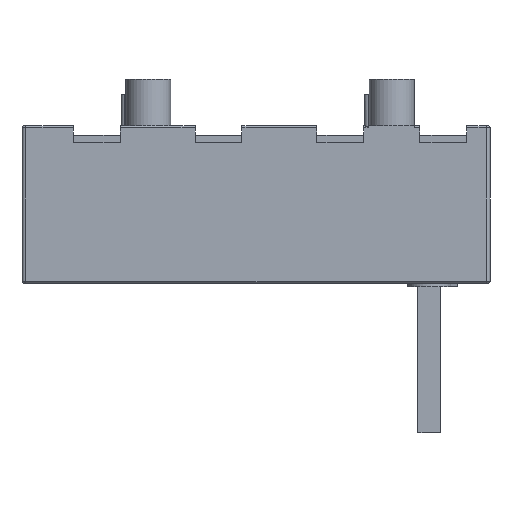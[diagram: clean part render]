
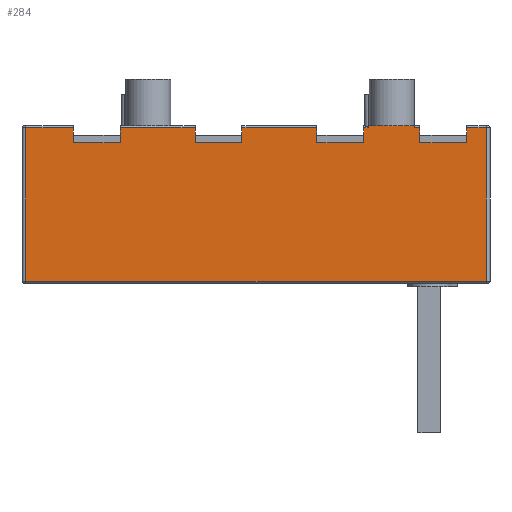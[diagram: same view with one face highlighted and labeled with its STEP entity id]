
A CAD part, front view. The second image highlights one B-rep face of the part: STEP entity #284.
In plain terms, the highlighted planar face has unit normal (0, -1, 0).
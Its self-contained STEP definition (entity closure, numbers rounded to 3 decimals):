
#284=ADVANCED_FACE('',(#620),#500,.T.);
#500=PLANE('',#3919);
#620=FACE_OUTER_BOUND('',#768,.T.);
#768=EDGE_LOOP('',(#1289,#1290,#1291,#1292,#1293,#1294,#1295,#1296,#1297,
#1298,#1299,#1300,#1301,#1302,#1303,#1304,#1305,#1306,#1307,#1308,#1309,
#1310,#1311,#1312,#1313,#1314,#1315,#1316,#1317,#1318,#1319,#1320,#1321,
#1322));
#1289=ORIENTED_EDGE('',*,*,#2713,.F.);
#1290=ORIENTED_EDGE('',*,*,#2714,.F.);
#1291=ORIENTED_EDGE('',*,*,#2715,.T.);
#1292=ORIENTED_EDGE('',*,*,#2716,.T.);
#1293=ORIENTED_EDGE('',*,*,#2717,.T.);
#1294=ORIENTED_EDGE('',*,*,#2718,.F.);
#1295=ORIENTED_EDGE('',*,*,#2719,.F.);
#1296=ORIENTED_EDGE('',*,*,#2720,.T.);
#1297=ORIENTED_EDGE('',*,*,#2721,.T.);
#1298=ORIENTED_EDGE('',*,*,#2722,.T.);
#1299=ORIENTED_EDGE('',*,*,#2674,.F.);
#1300=ORIENTED_EDGE('',*,*,#2723,.T.);
#1301=ORIENTED_EDGE('',*,*,#2724,.T.);
#1302=ORIENTED_EDGE('',*,*,#2725,.T.);
#1303=ORIENTED_EDGE('',*,*,#2672,.T.);
#1304=ORIENTED_EDGE('',*,*,#2726,.T.);
#1305=ORIENTED_EDGE('',*,*,#2727,.F.);
#1306=ORIENTED_EDGE('',*,*,#2728,.F.);
#1307=ORIENTED_EDGE('',*,*,#2729,.F.);
#1308=ORIENTED_EDGE('',*,*,#2730,.F.);
#1309=ORIENTED_EDGE('',*,*,#2731,.T.);
#1310=ORIENTED_EDGE('',*,*,#2732,.T.);
#1311=ORIENTED_EDGE('',*,*,#2733,.F.);
#1312=ORIENTED_EDGE('',*,*,#2734,.F.);
#1313=ORIENTED_EDGE('',*,*,#2735,.F.);
#1314=ORIENTED_EDGE('',*,*,#2736,.F.);
#1315=ORIENTED_EDGE('',*,*,#2737,.T.);
#1316=ORIENTED_EDGE('',*,*,#2738,.T.);
#1317=ORIENTED_EDGE('',*,*,#2739,.F.);
#1318=ORIENTED_EDGE('',*,*,#2740,.T.);
#1319=ORIENTED_EDGE('',*,*,#2741,.T.);
#1320=ORIENTED_EDGE('',*,*,#2742,.T.);
#1321=ORIENTED_EDGE('',*,*,#2743,.F.);
#1322=ORIENTED_EDGE('',*,*,#2744,.F.);
#2306=VERTEX_POINT('',#5440);
#2310=VERTEX_POINT('',#5448);
#2311=VERTEX_POINT('',#5452);
#2313=VERTEX_POINT('',#5455);
#2349=VERTEX_POINT('',#5538);
#2350=VERTEX_POINT('',#5539);
#2351=VERTEX_POINT('',#5541);
#2352=VERTEX_POINT('',#5543);
#2353=VERTEX_POINT('',#5545);
#2354=VERTEX_POINT('',#5547);
#2355=VERTEX_POINT('',#5549);
#2356=VERTEX_POINT('',#5551);
#2357=VERTEX_POINT('',#5553);
#2358=VERTEX_POINT('',#5555);
#2359=VERTEX_POINT('',#5558);
#2360=VERTEX_POINT('',#5560);
#2361=VERTEX_POINT('',#5563);
#2362=VERTEX_POINT('',#5565);
#2363=VERTEX_POINT('',#5567);
#2364=VERTEX_POINT('',#5569);
#2365=VERTEX_POINT('',#5571);
#2366=VERTEX_POINT('',#5573);
#2367=VERTEX_POINT('',#5575);
#2368=VERTEX_POINT('',#5577);
#2369=VERTEX_POINT('',#5579);
#2370=VERTEX_POINT('',#5581);
#2371=VERTEX_POINT('',#5583);
#2372=VERTEX_POINT('',#5585);
#2373=VERTEX_POINT('',#5587);
#2374=VERTEX_POINT('',#5589);
#2375=VERTEX_POINT('',#5591);
#2376=VERTEX_POINT('',#5593);
#2377=VERTEX_POINT('',#5595);
#2378=VERTEX_POINT('',#5597);
#2672=EDGE_CURVE('',#2306,#2310,#3202,.T.);
#2674=EDGE_CURVE('',#2311,#2313,#3204,.T.);
#2713=EDGE_CURVE('',#2349,#2350,#3233,.T.);
#2714=EDGE_CURVE('',#2351,#2349,#3234,.T.);
#2715=EDGE_CURVE('',#2351,#2352,#3235,.T.);
#2716=EDGE_CURVE('',#2352,#2353,#3236,.T.);
#2717=EDGE_CURVE('',#2353,#2354,#3237,.T.);
#2718=EDGE_CURVE('',#2355,#2354,#3238,.T.);
#2719=EDGE_CURVE('',#2356,#2355,#3239,.T.);
#2720=EDGE_CURVE('',#2356,#2357,#3240,.T.);
#2721=EDGE_CURVE('',#2357,#2358,#3241,.T.);
#2722=EDGE_CURVE('',#2358,#2313,#3242,.T.);
#2723=EDGE_CURVE('',#2311,#2359,#3243,.T.);
#2724=EDGE_CURVE('',#2359,#2360,#3244,.T.);
#2725=EDGE_CURVE('',#2360,#2306,#3245,.T.);
#2726=EDGE_CURVE('',#2310,#2361,#3246,.T.);
#2727=EDGE_CURVE('',#2362,#2361,#3247,.T.);
#2728=EDGE_CURVE('',#2363,#2362,#3248,.T.);
#2729=EDGE_CURVE('',#2364,#2363,#3249,.T.);
#2730=EDGE_CURVE('',#2365,#2364,#3250,.T.);
#2731=EDGE_CURVE('',#2365,#2366,#3251,.T.);
#2732=EDGE_CURVE('',#2366,#2367,#3252,.T.);
#2733=EDGE_CURVE('',#2368,#2367,#3253,.T.);
#2734=EDGE_CURVE('',#2369,#2368,#3254,.T.);
#2735=EDGE_CURVE('',#2370,#2369,#3255,.T.);
#2736=EDGE_CURVE('',#2371,#2370,#3256,.T.);
#2737=EDGE_CURVE('',#2371,#2372,#3257,.T.);
#2738=EDGE_CURVE('',#2372,#2373,#3258,.T.);
#2739=EDGE_CURVE('',#2374,#2373,#3259,.T.);
#2740=EDGE_CURVE('',#2374,#2375,#3260,.T.);
#2741=EDGE_CURVE('',#2375,#2376,#3261,.T.);
#2742=EDGE_CURVE('',#2376,#2377,#3262,.T.);
#2743=EDGE_CURVE('',#2378,#2377,#3263,.T.);
#2744=EDGE_CURVE('',#2350,#2378,#3264,.T.);
#3202=LINE('',#5449,#3542);
#3204=LINE('',#5454,#3544);
#3233=LINE('',#5537,#3573);
#3234=LINE('',#5540,#3574);
#3235=LINE('',#5542,#3575);
#3236=LINE('',#5544,#3576);
#3237=LINE('',#5546,#3577);
#3238=LINE('',#5548,#3578);
#3239=LINE('',#5550,#3579);
#3240=LINE('',#5552,#3580);
#3241=LINE('',#5554,#3581);
#3242=LINE('',#5556,#3582);
#3243=LINE('',#5557,#3583);
#3244=LINE('',#5559,#3584);
#3245=LINE('',#5561,#3585);
#3246=LINE('',#5562,#3586);
#3247=LINE('',#5564,#3587);
#3248=LINE('',#5566,#3588);
#3249=LINE('',#5568,#3589);
#3250=LINE('',#5570,#3590);
#3251=LINE('',#5572,#3591);
#3252=LINE('',#5574,#3592);
#3253=LINE('',#5576,#3593);
#3254=LINE('',#5578,#3594);
#3255=LINE('',#5580,#3595);
#3256=LINE('',#5582,#3596);
#3257=LINE('',#5584,#3597);
#3258=LINE('',#5586,#3598);
#3259=LINE('',#5588,#3599);
#3260=LINE('',#5590,#3600);
#3261=LINE('',#5592,#3601);
#3262=LINE('',#5594,#3602);
#3263=LINE('',#5596,#3603);
#3264=LINE('',#5598,#3604);
#3542=VECTOR('',#4305,1.);
#3544=VECTOR('',#4309,1.);
#3573=VECTOR('',#4374,1.);
#3574=VECTOR('',#4375,1.);
#3575=VECTOR('',#4376,1.);
#3576=VECTOR('',#4377,1.);
#3577=VECTOR('',#4378,1.);
#3578=VECTOR('',#4379,1.);
#3579=VECTOR('',#4380,1.);
#3580=VECTOR('',#4381,1.);
#3581=VECTOR('',#4382,1.);
#3582=VECTOR('',#4383,1.);
#3583=VECTOR('',#4384,1.);
#3584=VECTOR('',#4385,1.);
#3585=VECTOR('',#4386,1.);
#3586=VECTOR('',#4387,1.);
#3587=VECTOR('',#4388,1.);
#3588=VECTOR('',#4389,1.);
#3589=VECTOR('',#4390,1.);
#3590=VECTOR('',#4391,1.);
#3591=VECTOR('',#4392,1.);
#3592=VECTOR('',#4393,1.);
#3593=VECTOR('',#4394,1.);
#3594=VECTOR('',#4395,1.);
#3595=VECTOR('',#4396,1.);
#3596=VECTOR('',#4397,1.);
#3597=VECTOR('',#4398,1.);
#3598=VECTOR('',#4399,1.);
#3599=VECTOR('',#4400,1.);
#3600=VECTOR('',#4401,1.);
#3601=VECTOR('',#4402,1.);
#3602=VECTOR('',#4403,1.);
#3603=VECTOR('',#4404,1.);
#3604=VECTOR('',#4405,1.);
#3919=AXIS2_PLACEMENT_3D('',#5599,#4406,#4407);
#4305=DIRECTION('',(0.,0.,1.));
#4309=DIRECTION('',(0.,0.,1.));
#4374=DIRECTION('',(1.,0.,0.));
#4375=DIRECTION('',(0.,0.,-1.));
#4376=DIRECTION('',(0.,0.,1.));
#4377=DIRECTION('',(-1.,0.,0.));
#4378=DIRECTION('',(0.,0.,1.));
#4379=DIRECTION('',(1.,0.,0.));
#4380=DIRECTION('',(0.,0.,-1.));
#4381=DIRECTION('',(-1.,0.,0.));
#4382=DIRECTION('',(0.,0.,-1.));
#4383=DIRECTION('',(-1.,0.,0.));
#4384=DIRECTION('',(0.,0.,-1.));
#4385=DIRECTION('',(-1.,0.,0.));
#4386=DIRECTION('',(0.,0.,1.));
#4387=DIRECTION('',(-1.,0.,0.));
#4388=DIRECTION('',(0.,0.,1.));
#4389=DIRECTION('',(0.,0.,1.));
#4390=DIRECTION('',(1.,0.,0.));
#4391=DIRECTION('',(0.,0.,-1.));
#4392=DIRECTION('',(0.,0.,1.));
#4393=DIRECTION('',(-1.,0.,0.));
#4394=DIRECTION('',(0.,0.,1.));
#4395=DIRECTION('',(0.,0.,1.));
#4396=DIRECTION('',(1.,0.,0.));
#4397=DIRECTION('',(0.,0.,-1.));
#4398=DIRECTION('',(0.,0.,1.));
#4399=DIRECTION('',(-1.,0.,0.));
#4400=DIRECTION('',(0.,0.,1.));
#4401=DIRECTION('',(1.,0.,0.));
#4402=DIRECTION('',(0.,0.,1.));
#4403=DIRECTION('',(-1.,0.,0.));
#4404=DIRECTION('',(0.,0.,1.));
#4405=DIRECTION('',(0.,0.,1.));
#4406=DIRECTION('',(0.,-1.,0.));
#4407=DIRECTION('',(1.,0.,0.));
#5440=CARTESIAN_POINT('',(-40.,-52.5,-5.));
#5448=CARTESIAN_POINT('',(-40.,-52.5,-1.));
#5449=CARTESIAN_POINT('',(-40.,-52.5,-9.));
#5452=CARTESIAN_POINT('',(-15.,-52.5,-5.));
#5454=CARTESIAN_POINT('',(-15.,-52.5,-9.));
#5455=CARTESIAN_POINT('',(-15.,-52.5,-1.));
#5537=CARTESIAN_POINT('',(15.,-52.5,-9.));
#5538=CARTESIAN_POINT('',(15.,-52.5,-9.));
#5539=CARTESIAN_POINT('',(40.,-52.5,-9.));
#5540=CARTESIAN_POINT('',(15.,-52.5,-9.));
#5541=CARTESIAN_POINT('',(15.,-52.5,-5.));
#5542=CARTESIAN_POINT('',(15.,-52.5,-9.));
#5543=CARTESIAN_POINT('',(15.,-52.5,-1.));
#5544=CARTESIAN_POINT('',(12.,-52.5,-1.));
#5545=CARTESIAN_POINT('',(12.,-52.5,-1.));
#5546=CARTESIAN_POINT('',(12.,-52.5,4.));
#5547=CARTESIAN_POINT('',(12.,-52.5,0.));
#5548=CARTESIAN_POINT('',(50.5,-52.5,0.));
#5549=CARTESIAN_POINT('',(-12.,-52.5,0.));
#5550=CARTESIAN_POINT('',(-12.,-52.5,25.));
#5551=CARTESIAN_POINT('',(-12.,-52.5,17.));
#5552=CARTESIAN_POINT('',(7.5,-52.5,17.));
#5553=CARTESIAN_POINT('',(-12.5,-52.5,17.));
#5554=CARTESIAN_POINT('',(-12.5,-52.5,4.));
#5555=CARTESIAN_POINT('',(-12.5,-52.5,-1.));
#5556=CARTESIAN_POINT('',(-195.5,-52.5,-1.));
#5557=CARTESIAN_POINT('',(-15.,-52.5,-9.));
#5558=CARTESIAN_POINT('',(-15.,-52.5,-9.));
#5559=CARTESIAN_POINT('',(-40.,-52.5,-9.));
#5560=CARTESIAN_POINT('',(-40.,-52.5,-9.));
#5561=CARTESIAN_POINT('',(-40.,-52.5,-9.));
#5562=CARTESIAN_POINT('',(-195.5,-52.5,-1.));
#5563=CARTESIAN_POINT('',(-80.,-52.5,-1.));
#5564=CARTESIAN_POINT('',(-80.,-52.5,-9.));
#5565=CARTESIAN_POINT('',(-80.,-52.5,-5.));
#5566=CARTESIAN_POINT('',(-80.,-52.5,-9.));
#5567=CARTESIAN_POINT('',(-80.,-52.5,-9.));
#5568=CARTESIAN_POINT('',(-105.,-52.5,-9.));
#5569=CARTESIAN_POINT('',(-105.,-52.5,-9.));
#5570=CARTESIAN_POINT('',(-105.,-52.5,-9.));
#5571=CARTESIAN_POINT('',(-105.,-52.5,-5.));
#5572=CARTESIAN_POINT('',(-105.,-52.5,-9.));
#5573=CARTESIAN_POINT('',(-105.,-52.5,-1.));
#5574=CARTESIAN_POINT('',(-195.5,-52.5,-1.));
#5575=CARTESIAN_POINT('',(-145.,-52.5,-1.));
#5576=CARTESIAN_POINT('',(-145.,-52.5,-9.));
#5577=CARTESIAN_POINT('',(-145.,-52.5,-5.));
#5578=CARTESIAN_POINT('',(-145.,-52.5,-9.));
#5579=CARTESIAN_POINT('',(-145.,-52.5,-9.));
#5580=CARTESIAN_POINT('',(-170.,-52.5,-9.));
#5581=CARTESIAN_POINT('',(-170.,-52.5,-9.));
#5582=CARTESIAN_POINT('',(-170.,-52.5,-9.));
#5583=CARTESIAN_POINT('',(-170.,-52.5,-5.));
#5584=CARTESIAN_POINT('',(-170.,-52.5,-9.));
#5585=CARTESIAN_POINT('',(-170.,-52.5,-1.));
#5586=CARTESIAN_POINT('',(-195.5,-52.5,-1.));
#5587=CARTESIAN_POINT('',(-195.5,-52.5,-1.));
#5588=CARTESIAN_POINT('',(-195.5,-52.5,-84.));
#5589=CARTESIAN_POINT('',(-195.5,-52.5,-83.));
#5590=CARTESIAN_POINT('',(-12.,-52.5,-83.));
#5591=CARTESIAN_POINT('',(50.5,-52.5,-83.));
#5592=CARTESIAN_POINT('',(50.5,-52.5,-84.));
#5593=CARTESIAN_POINT('',(50.5,-52.5,-1.));
#5594=CARTESIAN_POINT('',(12.,-52.5,-1.));
#5595=CARTESIAN_POINT('',(40.,-52.5,-1.));
#5596=CARTESIAN_POINT('',(40.,-52.5,-9.));
#5597=CARTESIAN_POINT('',(40.,-52.5,-5.));
#5598=CARTESIAN_POINT('',(40.,-52.5,-9.));
#5599=CARTESIAN_POINT('',(-12.,-52.5,4.));
